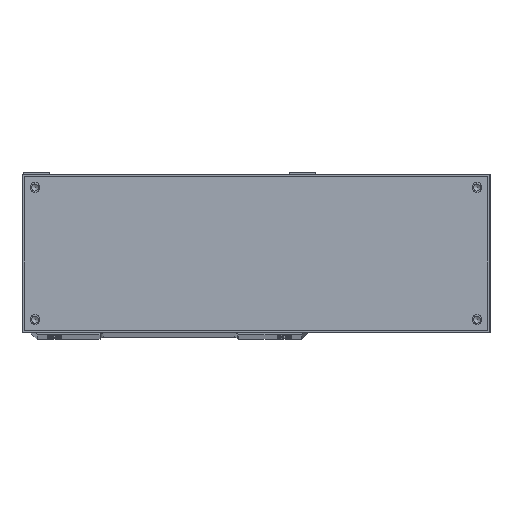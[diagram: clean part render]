
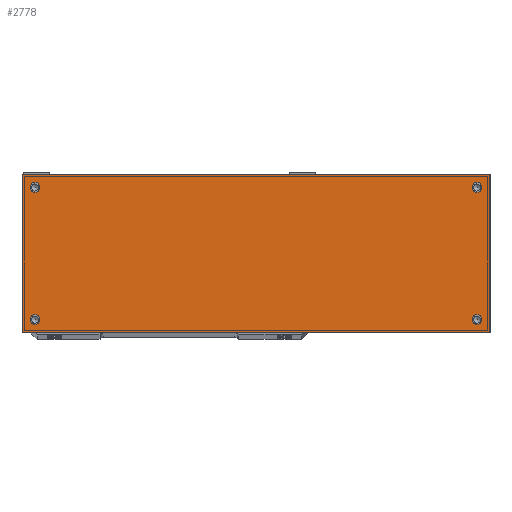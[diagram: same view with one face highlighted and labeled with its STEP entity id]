
A CAD part, top view. The second image highlights one B-rep face of the part: STEP entity #2778.
In plain terms, the highlighted planar face has unit normal (0, 0, 1).
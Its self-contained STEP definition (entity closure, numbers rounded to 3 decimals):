
#295=FACE_BOUND('',#4727,.T.);
#296=FACE_BOUND('',#4728,.T.);
#297=FACE_BOUND('',#4729,.T.);
#298=FACE_BOUND('',#4730,.T.);
#299=FACE_BOUND('',#4731,.T.);
#1405=CIRCLE('',#16789,2.25);
#1406=CIRCLE('',#16790,2.25);
#1407=CIRCLE('',#16791,2.25);
#1408=CIRCLE('',#16792,2.25);
#2778=ADVANCED_FACE('8',(#295,#296,#297,#298,#299),#3554,.F.);
#3554=PLANE('',#16793);
#4727=EDGE_LOOP('',(#7186));
#4728=EDGE_LOOP('',(#7187));
#4729=EDGE_LOOP('',(#7188));
#4730=EDGE_LOOP('',(#7189));
#4731=EDGE_LOOP('',(#7190,#7191,#7192,#7193));
#7186=ORIENTED_EDGE('',*,*,#12830,.F.);
#7187=ORIENTED_EDGE('',*,*,#12831,.F.);
#7188=ORIENTED_EDGE('',*,*,#12832,.F.);
#7189=ORIENTED_EDGE('',*,*,#12833,.F.);
#7190=ORIENTED_EDGE('',*,*,#12834,.F.);
#7191=ORIENTED_EDGE('',*,*,#12835,.F.);
#7192=ORIENTED_EDGE('',*,*,#12738,.F.);
#7193=ORIENTED_EDGE('',*,*,#12761,.F.);
#10917=VERTEX_POINT('',#25672);
#10918=VERTEX_POINT('',#25674);
#10929=VERTEX_POINT('',#25710);
#10960=VERTEX_POINT('',#26220);
#10961=VERTEX_POINT('',#26222);
#10962=VERTEX_POINT('',#26224);
#10963=VERTEX_POINT('',#26226);
#10964=VERTEX_POINT('',#26228);
#12738=EDGE_CURVE('',#10917,#10918,#14501,.T.);
#12761=EDGE_CURVE('',#10929,#10917,#14522,.T.);
#12830=EDGE_CURVE('',#10960,#10960,#1405,.T.);
#12831=EDGE_CURVE('',#10961,#10961,#1406,.T.);
#12832=EDGE_CURVE('',#10962,#10962,#1407,.T.);
#12833=EDGE_CURVE('',#10963,#10963,#1408,.T.);
#12834=EDGE_CURVE('',#10964,#10929,#14548,.T.);
#12835=EDGE_CURVE('',#10918,#10964,#14549,.T.);
#14501=LINE('',#25673,#15606);
#14522=LINE('',#25711,#15627);
#14548=LINE('',#26227,#15653);
#14549=LINE('',#26229,#15654);
#15606=VECTOR('',#19596,1.);
#15627=VECTOR('',#19627,1.);
#15653=VECTOR('',#19765,1.);
#15654=VECTOR('',#19766,1.);
#16789=AXIS2_PLACEMENT_3D('',#26219,#19757,#19758);
#16790=AXIS2_PLACEMENT_3D('',#26221,#19759,#19760);
#16791=AXIS2_PLACEMENT_3D('',#26223,#19761,#19762);
#16792=AXIS2_PLACEMENT_3D('',#26225,#19763,#19764);
#16793=AXIS2_PLACEMENT_3D('',#26230,#19767,#19768);
#19596=DIRECTION('',(0.,1.,0.));
#19627=DIRECTION('',(-1.,0.,0.));
#19757=DIRECTION('',(0.,0.,1.));
#19758=DIRECTION('',(-1.,0.,0.));
#19759=DIRECTION('',(0.,0.,1.));
#19760=DIRECTION('',(1.,0.,0.));
#19761=DIRECTION('',(0.,0.,1.));
#19762=DIRECTION('',(-1.,0.,0.));
#19763=DIRECTION('',(0.,0.,1.));
#19764=DIRECTION('',(1.,0.,0.));
#19765=DIRECTION('',(0.,-1.,0.));
#19766=DIRECTION('',(1.,0.,0.));
#19767=DIRECTION('',(0.,0.,-1.));
#19768=DIRECTION('',(1.,0.,0.));
#25672=CARTESIAN_POINT('',(-68.,0.,193.));
#25673=CARTESIAN_POINT('',(-68.,73.,193.));
#25674=CARTESIAN_POINT('',(-68.,73.,193.));
#25710=CARTESIAN_POINT('',(148.,0.,193.));
#25711=CARTESIAN_POINT('',(148.,0.,193.));
#26219=CARTESIAN_POINT('',(-62.,6.,193.));
#26220=CARTESIAN_POINT('',(-64.25,6.,193.));
#26221=CARTESIAN_POINT('',(142.,6.,193.));
#26222=CARTESIAN_POINT('',(144.25,6.,193.));
#26223=CARTESIAN_POINT('',(142.,67.,193.));
#26224=CARTESIAN_POINT('',(139.75,67.,193.));
#26225=CARTESIAN_POINT('',(-62.,67.,193.));
#26226=CARTESIAN_POINT('',(-59.75,67.,193.));
#26227=CARTESIAN_POINT('',(148.,73.,193.));
#26228=CARTESIAN_POINT('',(148.,73.,193.));
#26229=CARTESIAN_POINT('',(148.,73.,193.));
#26230=CARTESIAN_POINT('',(40.,36.5,193.));
